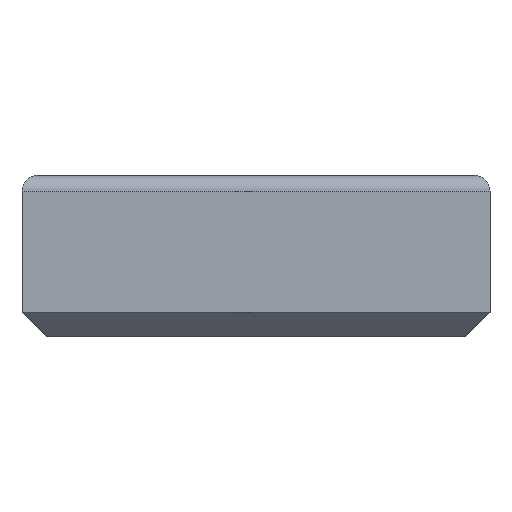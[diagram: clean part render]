
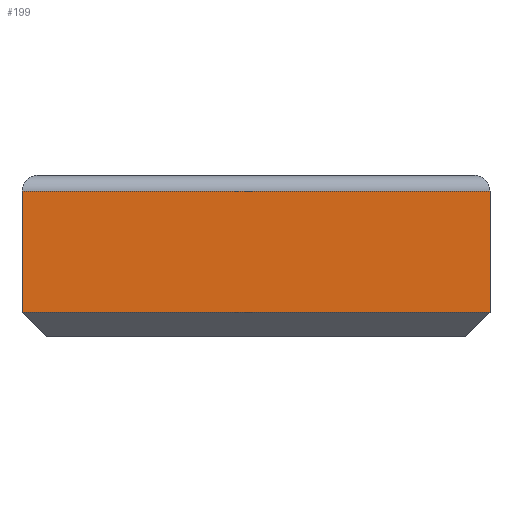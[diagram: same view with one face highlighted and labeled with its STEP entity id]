
A CAD part, front view. The second image highlights one B-rep face of the part: STEP entity #199.
In plain terms, the highlighted planar face has unit normal (0, -1, 0).
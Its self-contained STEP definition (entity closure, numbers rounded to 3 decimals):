
#199 = ADVANCED_FACE ( 'NONE', ( #481 ), #6962, .T. ) ;
#374 = EDGE_LOOP ( 'NONE', ( #2122, #3676, #5214, #2304 ) ) ;
#481 = FACE_OUTER_BOUND ( 'NONE', #374, .T. ) ;
#572 = EDGE_CURVE ( 'NONE', #5909, #6189, #6913, .T. ) ;
#990 = CARTESIAN_POINT ( 'NONE',  ( 0., 0., 3. ) ) ;
#1093 = CARTESIAN_POINT ( 'NONE',  ( 58., 0., 3. ) ) ;
#1304 = LINE ( 'NONE', #2856, #4363 ) ;
#1481 = VECTOR ( 'NONE', #1683, 1000. ) ;
#1618 = AXIS2_PLACEMENT_3D ( 'NONE', #4512, #2386, #3475 ) ;
#1683 = DIRECTION ( 'NONE',  ( 1., 0., 0. ) ) ;
#2122 = ORIENTED_EDGE ( 'NONE', *, *, #6920, .T. ) ;
#2230 = CARTESIAN_POINT ( 'NONE',  ( 58., 0., 18. ) ) ;
#2242 = CARTESIAN_POINT ( 'NONE',  ( 29., 0., 3. ) ) ;
#2304 = ORIENTED_EDGE ( 'NONE', *, *, #4615, .T. ) ;
#2386 = DIRECTION ( 'NONE',  ( 0., -1., 0. ) ) ;
#2407 = EDGE_CURVE ( 'NONE', #3599, #5909, #1304, .T. ) ;
#2856 = CARTESIAN_POINT ( 'NONE',  ( 0., 0., 10.5 ) ) ;
#3012 = LINE ( 'NONE', #2242, #1481 ) ;
#3343 = CARTESIAN_POINT ( 'NONE',  ( 58., 0., 10.5 ) ) ;
#3475 = DIRECTION ( 'NONE',  ( 0., 0., -1. ) ) ;
#3599 = VERTEX_POINT ( 'NONE', #990 ) ;
#3676 = ORIENTED_EDGE ( 'NONE', *, *, #572, .F. ) ;
#4332 = CARTESIAN_POINT ( 'NONE',  ( 0., 0., 18. ) ) ;
#4363 = VECTOR ( 'NONE', #6911, 1000. ) ;
#4512 = CARTESIAN_POINT ( 'NONE',  ( 0., 0., 0. ) ) ;
#4587 = VERTEX_POINT ( 'NONE', #1093 ) ;
#4615 = EDGE_CURVE ( 'NONE', #3599, #4587, #3012, .T. ) ;
#4895 = DIRECTION ( 'NONE',  ( 1., 0., 0. ) ) ;
#4925 = CARTESIAN_POINT ( 'NONE',  ( 29., 0., 18. ) ) ;
#5039 = DIRECTION ( 'NONE',  ( 0., 0., 1. ) ) ;
#5214 = ORIENTED_EDGE ( 'NONE', *, *, #2407, .F. ) ;
#5361 = VECTOR ( 'NONE', #5039, 1000. ) ;
#5383 = VECTOR ( 'NONE', #4895, 1000. ) ;
#5909 = VERTEX_POINT ( 'NONE', #4332 ) ;
#6189 = VERTEX_POINT ( 'NONE', #2230 ) ;
#6721 = LINE ( 'NONE', #3343, #5361 ) ;
#6911 = DIRECTION ( 'NONE',  ( 0., 0., 1. ) ) ;
#6913 = LINE ( 'NONE', #4925, #5383 ) ;
#6920 = EDGE_CURVE ( 'NONE', #4587, #6189, #6721, .T. ) ;
#6962 = PLANE ( 'NONE',  #1618 ) ;
